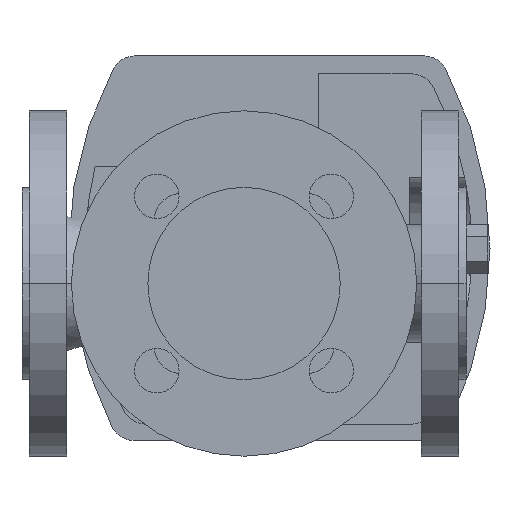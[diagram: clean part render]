
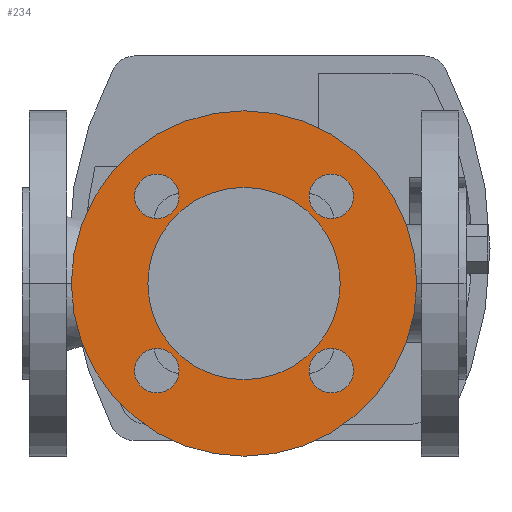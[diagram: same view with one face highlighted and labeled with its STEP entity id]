
A CAD part, front view. The second image highlights one B-rep face of the part: STEP entity #234.
In plain terms, the highlighted planar face has unit normal (0, -1, 0).
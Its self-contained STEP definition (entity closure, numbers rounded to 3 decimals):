
#234 = ADVANCED_FACE( '', ( #612, #613, #614, #615, #616, #617 ), #618, .F. );
#612 = FACE_BOUND( '', #1156, .T. );
#613 = FACE_BOUND( '', #1157, .T. );
#614 = FACE_BOUND( '', #1158, .T. );
#615 = FACE_BOUND( '', #1159, .T. );
#616 = FACE_OUTER_BOUND( '', #1160, .T. );
#617 = FACE_BOUND( '', #1161, .T. );
#618 = PLANE( '', #1162 );
#1156 = EDGE_LOOP( '', ( #2316, #2317 ) );
#1157 = EDGE_LOOP( '', ( #2318, #2319 ) );
#1158 = EDGE_LOOP( '', ( #2320, #2321 ) );
#1159 = EDGE_LOOP( '', ( #2322, #2323 ) );
#1160 = EDGE_LOOP( '', ( #2324, #2325 ) );
#1161 = EDGE_LOOP( '', ( #2326, #2327 ) );
#1162 = AXIS2_PLACEMENT_3D( '', #2328, #2329, #2330 );
#2316 = ORIENTED_EDGE( '', *, *, #3617, .T. );
#2317 = ORIENTED_EDGE( '', *, *, #3618, .T. );
#2318 = ORIENTED_EDGE( '', *, *, #3613, .T. );
#2319 = ORIENTED_EDGE( '', *, *, #3620, .T. );
#2320 = ORIENTED_EDGE( '', *, *, #3609, .T. );
#2321 = ORIENTED_EDGE( '', *, *, #3622, .T. );
#2322 = ORIENTED_EDGE( '', *, *, #3605, .T. );
#2323 = ORIENTED_EDGE( '', *, *, #3624, .T. );
#2324 = ORIENTED_EDGE( '', *, *, #3506, .F. );
#2325 = ORIENTED_EDGE( '', *, *, #3781, .F. );
#2326 = ORIENTED_EDGE( '', *, *, #3504, .F. );
#2327 = ORIENTED_EDGE( '', *, *, #3782, .F. );
#2328 = CARTESIAN_POINT( '', ( 90., -77., 0. ) );
#2329 = DIRECTION( '', ( 0., 1., 0. ) );
#2330 = DIRECTION( '', ( 0., 0., 1. ) );
#3504 = EDGE_CURVE( '', #4167, #4163, #4169, .T. );
#3506 = EDGE_CURVE( '', #4170, #4173, #4174, .T. );
#3605 = EDGE_CURVE( '', #4359, #4363, #4365, .T. );
#3609 = EDGE_CURVE( '', #4367, #4371, #4373, .T. );
#3613 = EDGE_CURVE( '', #4375, #4379, #4381, .T. );
#3617 = EDGE_CURVE( '', #4383, #4387, #4389, .T. );
#3618 = EDGE_CURVE( '', #4387, #4383, #4390, .T. );
#3620 = EDGE_CURVE( '', #4379, #4375, #4392, .T. );
#3622 = EDGE_CURVE( '', #4371, #4367, #4394, .T. );
#3624 = EDGE_CURVE( '', #4363, #4359, #4396, .T. );
#3781 = EDGE_CURVE( '', #4173, #4170, #4629, .T. );
#3782 = EDGE_CURVE( '', #4163, #4167, #4630, .T. );
#4163 = VERTEX_POINT( '', #5363 );
#4167 = VERTEX_POINT( '', #5368 );
#4169 = CIRCLE( '', #5371, 39. );
#4170 = VERTEX_POINT( '', #5372 );
#4173 = VERTEX_POINT( '', #5376 );
#4174 = CIRCLE( '', #5377, 70. );
#4359 = VERTEX_POINT( '', #5705 );
#4363 = VERTEX_POINT( '', #5710 );
#4365 = CIRCLE( '', #5713, 9. );
#4367 = VERTEX_POINT( '', #5715 );
#4371 = VERTEX_POINT( '', #5720 );
#4373 = CIRCLE( '', #5723, 9. );
#4375 = VERTEX_POINT( '', #5725 );
#4379 = VERTEX_POINT( '', #5730 );
#4381 = CIRCLE( '', #5733, 9. );
#4383 = VERTEX_POINT( '', #5735 );
#4387 = VERTEX_POINT( '', #5740 );
#4389 = CIRCLE( '', #5743, 9. );
#4390 = CIRCLE( '', #5744, 9. );
#4392 = CIRCLE( '', #5746, 9. );
#4394 = CIRCLE( '', #5748, 9. );
#4396 = CIRCLE( '', #5750, 9. );
#4629 = CIRCLE( '', #6143, 70. );
#4630 = CIRCLE( '', #6144, 39. );
#5363 = CARTESIAN_POINT( '', ( 129., -77., 0. ) );
#5368 = CARTESIAN_POINT( '', ( 51., -77., 0. ) );
#5371 = AXIS2_PLACEMENT_3D( '', #7048, #7049, #7050 );
#5372 = CARTESIAN_POINT( '', ( 160., -77., 0. ) );
#5376 = CARTESIAN_POINT( '', ( 20., -77., 0. ) );
#5377 = AXIS2_PLACEMENT_3D( '', #7052, #7053, #7054 );
#5705 = CARTESIAN_POINT( '', ( 45.645, -77., -35.355 ) );
#5710 = CARTESIAN_POINT( '', ( 63.645, -77., -35.355 ) );
#5713 = AXIS2_PLACEMENT_3D( '', #7249, #7250, #7251 );
#5715 = CARTESIAN_POINT( '', ( 45.645, -77., 35.355 ) );
#5720 = CARTESIAN_POINT( '', ( 63.645, -77., 35.355 ) );
#5723 = AXIS2_PLACEMENT_3D( '', #7257, #7258, #7259 );
#5725 = CARTESIAN_POINT( '', ( 116.355, -77., 35.355 ) );
#5730 = CARTESIAN_POINT( '', ( 134.355, -77., 35.355 ) );
#5733 = AXIS2_PLACEMENT_3D( '', #7265, #7266, #7267 );
#5735 = CARTESIAN_POINT( '', ( 116.355, -77., -35.355 ) );
#5740 = CARTESIAN_POINT( '', ( 134.355, -77., -35.355 ) );
#5743 = AXIS2_PLACEMENT_3D( '', #7273, #7274, #7275 );
#5744 = AXIS2_PLACEMENT_3D( '', #7276, #7277, #7278 );
#5746 = AXIS2_PLACEMENT_3D( '', #7282, #7283, #7284 );
#5748 = AXIS2_PLACEMENT_3D( '', #7288, #7289, #7290 );
#5750 = AXIS2_PLACEMENT_3D( '', #7294, #7295, #7296 );
#6143 = AXIS2_PLACEMENT_3D( '', #7577, #7578, #7579 );
#6144 = AXIS2_PLACEMENT_3D( '', #7580, #7581, #7582 );
#7048 = CARTESIAN_POINT( '', ( 90., -77., 0. ) );
#7049 = DIRECTION( '', ( 0., -1., 0. ) );
#7050 = DIRECTION( '', ( 1., 0., 0. ) );
#7052 = CARTESIAN_POINT( '', ( 90., -77., 0. ) );
#7053 = DIRECTION( '', ( 0., 1., 0. ) );
#7054 = DIRECTION( '', ( 1., 0., 0. ) );
#7249 = CARTESIAN_POINT( '', ( 54.645, -77., -35.355 ) );
#7250 = DIRECTION( '', ( 0., 1., 0. ) );
#7251 = DIRECTION( '', ( -1., 0., 0. ) );
#7257 = CARTESIAN_POINT( '', ( 54.645, -77., 35.355 ) );
#7258 = DIRECTION( '', ( 0., 1., 0. ) );
#7259 = DIRECTION( '', ( -1., 0., 0. ) );
#7265 = CARTESIAN_POINT( '', ( 125.355, -77., 35.355 ) );
#7266 = DIRECTION( '', ( 0., 1., 0. ) );
#7267 = DIRECTION( '', ( -1., 0., 0. ) );
#7273 = CARTESIAN_POINT( '', ( 125.355, -77., -35.355 ) );
#7274 = DIRECTION( '', ( 0., 1., 0. ) );
#7275 = DIRECTION( '', ( -1., 0., 0. ) );
#7276 = CARTESIAN_POINT( '', ( 125.355, -77., -35.355 ) );
#7277 = DIRECTION( '', ( 0., 1., 0. ) );
#7278 = DIRECTION( '', ( -1., 0., 0. ) );
#7282 = CARTESIAN_POINT( '', ( 125.355, -77., 35.355 ) );
#7283 = DIRECTION( '', ( 0., 1., 0. ) );
#7284 = DIRECTION( '', ( -1., 0., 0. ) );
#7288 = CARTESIAN_POINT( '', ( 54.645, -77., 35.355 ) );
#7289 = DIRECTION( '', ( 0., 1., 0. ) );
#7290 = DIRECTION( '', ( -1., 0., 0. ) );
#7294 = CARTESIAN_POINT( '', ( 54.645, -77., -35.355 ) );
#7295 = DIRECTION( '', ( 0., 1., 0. ) );
#7296 = DIRECTION( '', ( -1., 0., 0. ) );
#7577 = CARTESIAN_POINT( '', ( 90., -77., 0. ) );
#7578 = DIRECTION( '', ( 0., 1., 0. ) );
#7579 = DIRECTION( '', ( 1., 0., 0. ) );
#7580 = CARTESIAN_POINT( '', ( 90., -77., 0. ) );
#7581 = DIRECTION( '', ( 0., -1., 0. ) );
#7582 = DIRECTION( '', ( 1., 0., 0. ) );
